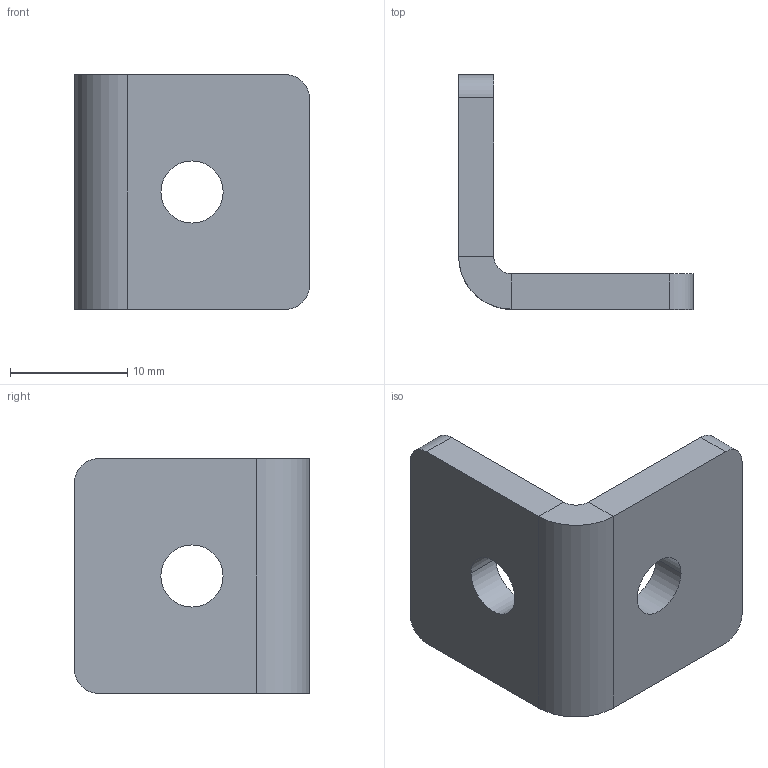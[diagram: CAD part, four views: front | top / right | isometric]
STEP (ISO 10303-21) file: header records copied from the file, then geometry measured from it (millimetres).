
FILE_DESCRIPTION (( 'STEP AP214' ), '1' );
FILE_NAME ('967-20-20-L-2-SW.step', '2023-06-26T09:07:52', ( '' ), ( '' ), 'SwSTEP 2.0', 'SolidWorks 2022', '' );
FILE_SCHEMA (( 'AUTOMOTIVE_DESIGN' ));
Length unit declared in the file: millimetre
Products named in the file (1): 967-20-20-L-2-SW
Bounding box: 20.01 x 20.01 x 20 mm (x, y, z)
Volume: 2001.2 mm3; surface area: 1758.1 mm2
Topology: 1 solids, 1 shells, 22 faces, 52 edges, 32 vertices
Faces by surface type: plane 12, cylinder 10
Entity records: 674 total; most frequent: DIRECTION 118, CARTESIAN_POINT 107, ORIENTED_EDGE 104, EDGE_CURVE 52, AXIS2_PLACEMENT_3D 43, VECTOR 32, LINE 32, VERTEX_POINT 32
